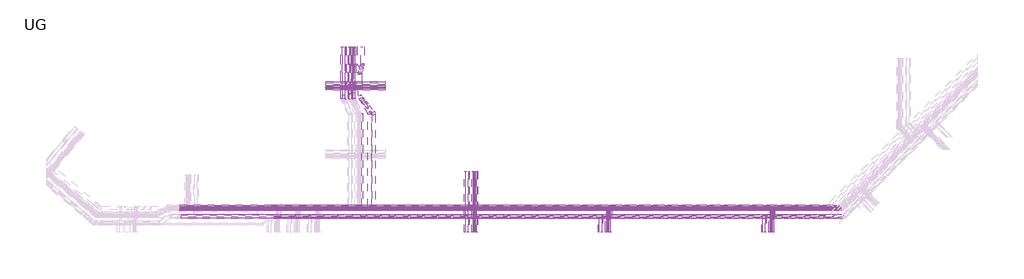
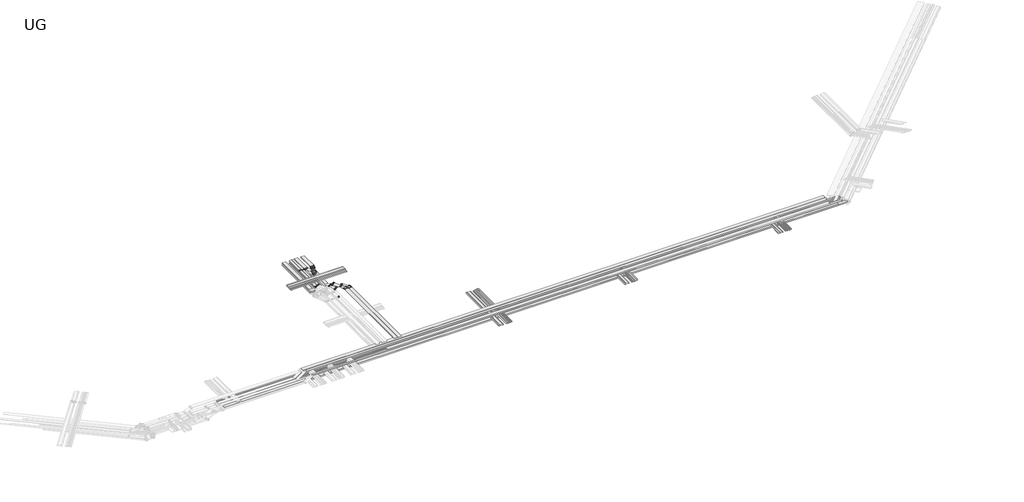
# One storey, part 11 of 14: 84 cable carrier segments, 19 cable carrier fittings.
"""IFC4 building model written with IfcOpenShell, lengths in millimetres."""

from ifc_helpers import new_model, si_unit, frame, origin, place, context, project, spatial, polyline, outline, extrude, transform, mapped, element, save
from components import cable_tray_horizontal_bend_01508106, cable_tray_horizontal_bend_86dabf7d, cable_tray_horizontal_bend_4702312a, cable_tray_horizontal_bend_7e36f1fa, cable_tray_horizontal_bend_95bc2381, cable_tray_horizontal_bend_7b900498, cable_tray_horizontal_bend_bd9ec753, cable_tray_horizontal_bend_85a4f385, cable_tray_horizontal_bend_bddb0f2c, cable_tray_horizontal_bend_cd0ecd2f, cable_tray_vertical_inside_bend_1594799f, cable_tray_vertical_outside_bend_12a83c8c

model = new_model("IFC4")

# Units and contexts
model_context = context("Model", 3, world=origin())
ifc_project = project(units=[si_unit("LENGTHUNIT", "METRE", prefix="MILLI")], contexts=[model_context])

# Site, building, storey
site = spatial("IfcSite", under=ifc_project)
building = spatial("IfcBuilding", under=site)
storey = spatial("IfcBuildingStorey", under=building, Name="UG", Elevation=7925.0)

# Cable carrier fittings
placement = place(None, origin())
cable_tray_horizontal_bend_shape = cable_tray_horizontal_bend_01508106(model_context)
element("IfcCableCarrierFitting", 1, ObjectType="Cable Tray Horizontal Bend : ELEC_ELV_TKG_N2402", at=placement, inside=storey, context=model_context, shape_type="MappedRepresentation", body=[
    mapped(cable_tray_horizontal_bend_shape, transform((176175.0000111, 39935.5055951, 12605.0), x_axis=(0.0, 1.0, 0.0), y_axis=(-1.0, 0.0, 0.0), z_axis=(0.0, 0.0, 1.0))),
])
cable_tray_horizontal_bend_2_shape = cable_tray_horizontal_bend_86dabf7d(model_context)
element("IfcCableCarrierFitting", 2, ObjectType="Cable Tray Horizontal Bend : ELEC_SUB_CT_N2402", at=placement, inside=storey, context=model_context, shape_type="MappedRepresentation", body=[
    mapped(cable_tray_horizontal_bend_2_shape, transform((174100.5007982, 43133.0967724, 13305.0), x_axis=(0.0, -1.0, 0.0), y_axis=(1.0, 0.0, 0.0), z_axis=(0.0, 0.0, 1.0))),
])
cable_tray_horizontal_bend_3_shape = cable_tray_horizontal_bend_4702312a(model_context)
element("IfcCableCarrierFitting", 3, ObjectType="Cable Tray Horizontal Bend : ELEC_SUB_CT_N2402", at=placement, inside=storey, context=model_context, shape_type="MappedRepresentation", body=[
    mapped(cable_tray_horizontal_bend_3_shape, transform((174550.5007982, 43329.2351048, 13305.0), x_axis=(0.0, -1.0, 0.0), y_axis=(1.0, 0.0, 0.0), z_axis=(0.0, 0.0, 1.0))),
])
cable_tray_horizontal_bend_4_shape = cable_tray_horizontal_bend_7e36f1fa(model_context)
element("IfcCableCarrierFitting", 4, ObjectType="Cable Tray Horizontal Bend : ELEC_SUB_CT_N2402", at=placement, inside=storey, context=model_context, shape_type="MappedRepresentation", body=[
    mapped(cable_tray_horizontal_bend_4_shape, transform((177399.4992066, 40035.5055951, 13775.0), x_axis=(0.0, 1.0, 0.0), y_axis=(-1.0, 0.0, 0.0), z_axis=(0.0, 0.0, 1.0))),
])
cable_tray_horizontal_bend_5_shape = cable_tray_horizontal_bend_95bc2381(model_context)
element("IfcCableCarrierFitting", 5, ObjectType="Cable Tray Horizontal Bend : ELEC_SUB_CT_N2402", at=placement, inside=storey, context=model_context, shape_type="MappedRepresentation", body=[
    mapped(cable_tray_horizontal_bend_5_shape, transform((178049.4992066, 39960.5055951, 13775.0), x_axis=(0.0, 1.0, 0.0), y_axis=(-1.0, 0.0, 0.0), z_axis=(0.0, 0.0, 1.0))),
])
cable_tray_horizontal_bend_6_shape = cable_tray_horizontal_bend_7b900498(model_context)
element("IfcCableCarrierFitting", 6, ObjectType="Cable Tray Horizontal Bend : ELEC_SUB_CT_N2402", at=placement, inside=storey, context=model_context, shape_type="MappedRepresentation", body=[
    mapped(cable_tray_horizontal_bend_6_shape, transform((174100.5283991, 48010.5055951, 13305.004421), x_axis=(0.0, -1.0, 0.0), y_axis=(0.9999999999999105, 0.0, -4.23194812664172e-07), z_axis=(4.23194812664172e-07, 0.0, 0.9999999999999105))),
])
element("IfcCableCarrierFitting", 7, ObjectType="Cable Tray Horizontal Bend : ELEC_SUB_CT_N2402", at=placement, inside=storey, context=model_context, shape_type="MappedRepresentation", body=[
    mapped(cable_tray_horizontal_bend_6_shape, transform((174100.5007982, 48010.7724522, 13305.0), x_axis=(0.0, 1.0, 0.0), y_axis=(-0.9999999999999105, 0.0, 4.231947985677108e-07), z_axis=(4.231947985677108e-07, 0.0, 0.9999999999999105))),
])
cable_tray_horizontal_bend_7_shape = cable_tray_horizontal_bend_bd9ec753(model_context)
element("IfcCableCarrierFitting", 8, ObjectType="Cable Tray Horizontal Bend : ELEC_SUB_CT_N2402", at=placement, inside=storey, context=model_context, shape_type="MappedRepresentation", body=[
    mapped(cable_tray_horizontal_bend_7_shape, transform((174550.5283991, 47910.5055951, 13305.004421), x_axis=(0.0, -1.0, 0.0), y_axis=(0.9999999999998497, 0.0, -5.483517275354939e-07), z_axis=(5.483517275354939e-07, 0.0, 0.9999999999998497))),
])
element("IfcCableCarrierFitting", 9, ObjectType="Cable Tray Horizontal Bend : ELEC_SUB_CT_N2402", at=placement, inside=storey, context=model_context, shape_type="MappedRepresentation", body=[
    mapped(cable_tray_horizontal_bend_7_shape, transform((174550.5007982, 47910.7402453, 13305.0), x_axis=(0.0, 1.0, 0.0), y_axis=(-0.9999999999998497, 0.0, 5.483517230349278e-07), z_axis=(5.483517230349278e-07, 0.0, 0.9999999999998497))),
])
cable_tray_horizontal_bend_8_shape = cable_tray_horizontal_bend_85a4f385(model_context)
element("IfcCableCarrierFitting", 10, ObjectType="Cable Tray Horizontal Bend : ELEC_SUB_CT_N2402", at=placement, inside=storey, context=model_context, shape_type="MappedRepresentation", body=[
    mapped(cable_tray_horizontal_bend_8_shape, transform((175100.5510187, 47910.5055951, 13304.8609064), x_axis=(0.0, -1.0, 0.0), y_axis=(1.0, 0.0, 0.0), z_axis=(0.0, 0.0, 1.0))),
])
cable_tray_horizontal_bend_9_shape = cable_tray_horizontal_bend_bddb0f2c(model_context)
element("IfcCableCarrierFitting", 11, ObjectType="Cable Tray Horizontal Bend : ELEC_SUB_CT_N2402", at=placement, inside=storey, context=model_context, shape_type="MappedRepresentation", body=[
    mapped(cable_tray_horizontal_bend_9_shape, transform((175805.5007838, 46560.5055951, 13305.0), x_axis=(0.0, 1.0, 0.0), y_axis=(-0.9999999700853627, 0.0, -0.00024460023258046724), z_axis=(-0.00024460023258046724, 0.0, 0.9999999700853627))),
])
cable_tray_horizontal_bend_10_shape = cable_tray_horizontal_bend_cd0ecd2f(model_context)
element("IfcCableCarrierFitting", 12, ObjectType="Cable Tray Horizontal Bend : ELEC_SUB_CT_N2402", at=placement, inside=storey, context=model_context, shape_type="MappedRepresentation", body=[
    mapped(cable_tray_horizontal_bend_10_shape, transform((176229.6338468, 48010.5055951, 13305.0), x_axis=(0.2807419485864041, 0.9597832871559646, 0.0), y_axis=(-0.9597832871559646, 0.2807419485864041, 0.0), z_axis=(0.0, 0.0, 1.0))),
])
element("IfcCableCarrierFitting", 13, ObjectType="Cable Tray Horizontal Bend : ELEC_SUB_CT_N2402", at=placement, inside=storey, context=model_context, shape_type="MappedRepresentation", body=[
    mapped(cable_tray_horizontal_bend_10_shape, transform((175805.5007838, 46560.5055951, 12930.0), x_axis=(-0.28074194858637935, -0.9597832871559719, 0.0), y_axis=(0.9597832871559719, -0.28074194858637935, 0.0), z_axis=(0.0, 0.0, 1.0))),
])
cable_tray_vertical_inside_bend_shape = cable_tray_vertical_inside_bend_1594799f(model_context)
element("IfcCableCarrierFitting", 14, ObjectType="Cable Tray Vertical Inside Bend : ELEC_SUB_CT_N2402", at=placement, inside=storey, context=model_context, shape_type="MappedRepresentation", body=[
    mapped(cable_tray_vertical_inside_bend_shape, transform((176040.6963746, 42315.8074596, 13305.0), x_axis=(0.5118955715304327, -0.8590476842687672, 0.0), y_axis=(0.0, 0.0, 1.0), z_axis=(-0.8590476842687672, -0.5118955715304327, 0.0))),
])
element("IfcCableCarrierFitting", 15, ObjectType="Cable Tray Vertical Inside Bend : ELEC_SUB_CT_N2402", at=placement, inside=storey, context=model_context, shape_type="MappedRepresentation", body=[
    mapped(cable_tray_vertical_inside_bend_shape, transform((176660.5210746, 41662.6858748, 12930.0), x_axis=(0.6322243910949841, -0.774785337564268, 0.0), y_axis=(0.0, 0.0, 1.0000000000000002), z_axis=(-0.774785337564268, -0.6322243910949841, 0.0))),
])
element("IfcCableCarrierFitting", 16, ObjectType="Cable Tray Vertical Inside Bend : ELEC_SUB_CT_N2402", at=placement, inside=storey, context=model_context, shape_type="MappedRepresentation", body=[
    mapped(cable_tray_vertical_inside_bend_shape, transform((176017.6178096, 47285.6782219, 12930.0), x_axis=(-0.19851453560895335, -0.6786692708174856, -0.7071067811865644), y_axis=(-0.19851453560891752, -0.6786692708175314, 0.7071067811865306), z_axis=(-0.9597832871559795, 0.2807419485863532, 0.0))),
])
cable_tray_vertical_outside_bend_shape = cable_tray_vertical_outside_bend_12a83c8c(model_context)
element("IfcCableCarrierFitting", 17, ObjectType="Cable Tray Vertical Outside Bend : ELEC_SUB_CT_N2402", at=placement, inside=storey, context=model_context, shape_type="MappedRepresentation", body=[
    mapped(cable_tray_vertical_outside_bend_shape, transform((176281.2872932, 41912.055048, 13775.0), x_axis=(0.3619648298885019, -0.6074384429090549, 0.7071067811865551), y_axis=(0.36196482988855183, -0.6074384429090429, -0.70710678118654), z_axis=(0.859047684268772, 0.511895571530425, 0.0))),
])
element("IfcCableCarrierFitting", 18, ObjectType="Cable Tray Vertical Outside Bend : ELEC_SUB_CT_N2402", at=placement, inside=storey, context=model_context, shape_type="MappedRepresentation", body=[
    mapped(cable_tray_vertical_outside_bend_shape, transform((177194.7506851, 41007.9922646, 13775.0), x_axis=(0.4470501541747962, -0.5478559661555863, 0.7071067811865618), y_axis=(0.4470501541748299, -0.5478559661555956, -0.7071067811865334), z_axis=(0.7747853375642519, 0.6322243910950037, 0.0))),
])
element("IfcCableCarrierFitting", 19, ObjectType="Cable Tray Vertical Outside Bend : ELEC_SUB_CT_N2402", at=placement, inside=storey, context=model_context, shape_type="MappedRepresentation", body=[
    mapped(cable_tray_vertical_outside_bend_shape, transform((176122.8960403, 47645.5969546, 13305.0), x_axis=(-0.2807419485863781, -0.9597832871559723, 0.0), y_axis=(0.0, 0.0, -1.0), z_axis=(0.9597832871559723, -0.2807419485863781, 0.0))),
])

# Cable carrier segments
element("IfcCableCarrierSegment", 20, ObjectType="ELEC_ELV_TKG_N2402", at=placement, inside=storey, context=model_context, shape_type="SweptSolid", body=[
    extrude(outline(polyline([(173400.500803, 42391.2447178), (173000.500803, 42391.2447178), (173000.500803, 50910.5055951), (173400.500803, 50910.5055951), (173400.500803, 42391.2447178)])), frame((0.0, 0.0, 12905.0), z_axis=(0.0, 0.0, 1.0), x_axis=(1.0, 0.0, 0.0)), (0.0, 0.0, 1.0), 150.0),
])
element("IfcCableCarrierSegment", 21, ObjectType="ELEC_ELV_TKG_N2402", at=placement, inside=storey, context=model_context, shape_type="SweptSolid", body=[
    extrude(outline(polyline([(175155.5007949, 42343.4059589), (175005.5007949, 42343.4059589), (175005.5007949, 50910.5055951), (175155.5007949, 50910.5055951), (175155.5007949, 42343.4059589)])), frame((0.0, 0.0, 12905.0), z_axis=(0.0, 0.0, 1.0), x_axis=(1.0, 0.0, 0.0)), (0.0, 0.0, 1.0), 150.0),
])
element("IfcCableCarrierSegment", 22, ObjectType="ELEC_ELV_TKG_N2402", at=placement, inside=storey, context=model_context, shape_type="SweptSolid", body=[
    extrude(outline(polyline([(174550.5007949, 42333.4334212), (174450.5007949, 42333.4334212), (174450.5007949, 50910.5055951), (174550.5007949, 50910.5055951), (174550.5007949, 42333.4334212)])), frame((0.0, 0.0, 12905.0), z_axis=(0.0, 0.0, 1.0), x_axis=(1.0, 0.0, 0.0)), (0.0, 0.0, 1.0), 100.0),
])
element("IfcCableCarrierSegment", 23, ObjectType="ELEC_ELV_TKG_N2402", at=placement, inside=storey, context=model_context, shape_type="SweptSolid", body=[
    extrude(outline(polyline([(174700.5007949, 42333.4334212), (174600.5007949, 42333.4334212), (174600.5007949, 50910.5055951), (174700.5007949, 50910.5055951), (174700.5007949, 42333.4334212)])), frame((0.0, 0.0, 12905.0), z_axis=(0.0, 0.0, 1.0), x_axis=(1.0, 0.0, 0.0)), (0.0, 0.0, 1.0), 100.0),
])
element("IfcCableCarrierSegment", 24, ObjectType="ELEC_ELV_TKG_N2402", at=placement, inside=storey, context=model_context, shape_type="SweptSolid", body=[
    extrude(outline(polyline([(174900.5007949, 42344.8973343), (174750.5007949, 42344.8973343), (174750.5007949, 50910.5055951), (174900.5007949, 50910.5055951), (174900.5007949, 42344.8973343)])), frame((0.0, 0.0, 12905.0), z_axis=(0.0, 0.0, 1.0), x_axis=(1.0, 0.0, 0.0)), (0.0, 0.0, 1.0), 150.0),
])
element("IfcCableCarrierSegment", 25, ObjectType="ELEC_ELV_TKG_N2402", at=placement, inside=storey, context=model_context, shape_type="SweptSolid", body=[
    extrude(outline(polyline([(174200.5007982, 42336.9320374), (174100.5007982, 42336.9320374), (174100.5007982, 50910.5055951), (174200.5007982, 50910.5055951), (174200.5007982, 42336.9320374)])), frame((0.0, 0.0, 12905.0), z_axis=(0.0, 0.0, 1.0), x_axis=(1.0, 0.0, 0.0)), (0.0, 0.0, 1.0), 100.0),
])
element("IfcCableCarrierSegment", 26, ObjectType="ELEC_ELV_CT_N2402", at=placement, inside=storey, context=model_context, shape_type="SweptSolid", body=[
    extrude(outline(polyline([(242615.2178846, 24200.0000035), (242765.2178846, 24200.0000035), (242765.2178846, 20563.0534549), (242615.2178846, 20563.0534549), (242615.2178846, 24200.0000035)])), frame((0.0, 0.0, 13074.9999954), z_axis=(0.0, 0.0, 1.0), x_axis=(1.0, 0.0, 0.0)), (0.0, 0.0, 1.0), 50.0),
])
element("IfcCableCarrierSegment", 27, ObjectType="ELEC_ELV_TKG_N2402", at=placement, inside=storey, context=model_context, shape_type="SweptSolid", body=[
    extrude(outline(polyline([(242965.2178846, 24500.0000036), (243065.2178846, 24500.0000036), (243065.2178846, 20563.0534549), (242965.2178846, 20563.0534549), (242965.2178846, 24500.0000036)])), frame((0.0, 0.0, 13074.9999954), z_axis=(0.0, 0.0, 1.0), x_axis=(1.0, 0.0, 0.0)), (0.0, 0.0, 1.0), 100.0),
])
element("IfcCableCarrierSegment", 28, ObjectType="ELEC_ELV_TKG_N2402", at=placement, inside=storey, context=model_context, shape_type="SweptSolid", body=[
    extrude(outline(polyline([(243215.2178846, 20563.0534549), (243115.2178846, 20563.0534549), (243115.2178846, 24650.0000036), (243215.2178846, 24650.0000036), (243215.2178846, 20563.0534549)])), frame((0.0, 0.0, 13074.9999954), z_axis=(0.0, 0.0, 1.0), x_axis=(1.0, 0.0, 0.0)), (0.0, 0.0, 1.0), 100.0),
])
element("IfcCableCarrierSegment", 29, ObjectType="ELEC_ELV_TKG_N2402", at=placement, inside=storey, context=model_context, shape_type="SweptSolid", body=[
    extrude(outline(polyline([(242915.2178846, 20563.0534549), (242815.2178846, 20563.0534549), (242815.2178846, 24350.0000036), (242915.2178846, 24350.0000036), (242915.2178846, 20563.0534549)])), frame((0.0, 0.0, 13074.9999954), z_axis=(0.0, 0.0, 1.0), x_axis=(1.0, 0.0, 0.0)), (0.0, 0.0, 1.0), 100.0),
])
element("IfcCableCarrierSegment", 30, ObjectType="ELEC_ELV_TKG_N2402", at=placement, inside=storey, context=model_context, shape_type="SweptSolid", body=[
    extrude(outline(polyline([(243265.2178846, 24850.0000036), (243415.2178846, 24850.0000036), (243415.2178846, 20563.0534549), (243265.2178846, 20563.0534549), (243265.2178846, 24850.0000036)])), frame((0.0, 0.0, 13074.9999954), z_axis=(0.0, 0.0, 1.0), x_axis=(1.0, 0.0, 0.0)), (0.0, 0.0, 1.0), 150.0),
])
element("IfcCableCarrierSegment", 31, ObjectType="ELEC_ELV_TKG_N2402", at=placement, inside=storey, context=model_context, shape_type="SweptSolid", body=[
    extrude(outline(polyline([(241615.123105, 23400.0), (242015.123105, 23400.0), (242015.123105, 20563.0534549), (241615.123105, 20563.0534549), (241615.123105, 23400.0)])), frame((0.0, 0.0, 13074.9999873), z_axis=(0.0, 0.0, 1.0), x_axis=(1.0, 0.0, 0.0)), (0.0, 0.0, 1.0), 150.0),
])
element("IfcCableCarrierSegment", 32, ObjectType="ELEC_ELV_TKG_N2402", at=placement, inside=storey, context=model_context, shape_type="SweptSolid", body=[
    extrude(outline(polyline([(241565.123105, 20563.0534549), (241415.123105, 20563.0534549), (241415.123105, 22950.0000046), (241565.123105, 22950.0000046), (241565.123105, 20563.0534549)])), frame((0.0, 0.0, 13074.9999873), z_axis=(0.0, 0.0, 1.0), x_axis=(1.0, 0.0, 0.0)), (0.0, 0.0, 1.0), 150.0),
])
element("IfcCableCarrierSegment", 33, ObjectType="ELEC_ELV_TKG_N2402", at=placement, inside=storey, context=model_context, shape_type="SweptSolid", body=[
    extrude(outline(polyline([(242165.123105, 20563.0534549), (242065.123105, 20563.0534549), (242065.123105, 23550.0), (242165.123105, 23550.0), (242165.123105, 20563.0534549)])), frame((0.0, 0.0, 13074.9999954), z_axis=(0.0, 0.0, 1.0), x_axis=(1.0, 0.0, 0.0)), (0.0, 0.0, 1.0), 100.0),
])
element("IfcCableCarrierSegment", 34, ObjectType="ELEC_ELV_TKG_N2402", at=placement, inside=storey, context=model_context, shape_type="SweptSolid", body=[
    extrude(outline(polyline([(243465.2178846, 25050.0000036), (243615.2178846, 25050.0000036), (243615.2178846, 20563.0534549), (243465.2178846, 20563.0534549), (243465.2178846, 25050.0000036)])), frame((0.0, 0.0, 13074.9999954), z_axis=(0.0, 0.0, 1.0), x_axis=(1.0, 0.0, 0.0)), (0.0, 0.0, 1.0), 150.0),
])
element("IfcCableCarrierSegment", 35, ObjectType="ELEC_ELV_CT_N2402", at=placement, inside=storey, context=model_context, shape_type="SweptSolid", body=[
    extrude(outline(polyline([(215912.2220567, 24200.0000035), (216062.2220567, 24200.0000035), (216062.2220567, 20563.0534549), (215912.2220567, 20563.0534549), (215912.2220567, 24200.0000035)])), frame((0.0, 0.0, 13074.9999954), z_axis=(0.0, 0.0, 1.0), x_axis=(1.0, 0.0, 0.0)), (0.0, 0.0, 1.0), 50.0),
])
element("IfcCableCarrierSegment", 36, ObjectType="ELEC_ELV_TKG_N2402", at=placement, inside=storey, context=model_context, shape_type="SweptSolid", body=[
    extrude(outline(polyline([(216262.2220567, 24500.0000036), (216362.2220567, 24500.0000036), (216362.2220567, 20563.0534549), (216262.2220567, 20563.0534549), (216262.2220567, 24500.0000036)])), frame((0.0, 0.0, 13074.9999954), z_axis=(0.0, 0.0, 1.0), x_axis=(1.0, 0.0, 0.0)), (0.0, 0.0, 1.0), 100.0),
])
element("IfcCableCarrierSegment", 37, ObjectType="ELEC_ELV_TKG_N2402", at=placement, inside=storey, context=model_context, shape_type="SweptSolid", body=[
    extrude(outline(polyline([(216512.2220567, 20563.0534549), (216412.2220567, 20563.0534549), (216412.2220567, 24650.0000036), (216512.2220567, 24650.0000036), (216512.2220567, 20563.0534549)])), frame((0.0, 0.0, 13074.9999954), z_axis=(0.0, 0.0, 1.0), x_axis=(1.0, 0.0, 0.0)), (0.0, 0.0, 1.0), 100.0),
])
element("IfcCableCarrierSegment", 38, ObjectType="ELEC_ELV_TKG_N2402", at=placement, inside=storey, context=model_context, shape_type="SweptSolid", body=[
    extrude(outline(polyline([(216212.2220567, 20563.0534549), (216112.2220567, 20563.0534549), (216112.2220567, 24350.0000036), (216212.2220567, 24350.0000036), (216212.2220567, 20563.0534549)])), frame((0.0, 0.0, 13074.9999954), z_axis=(0.0, 0.0, 1.0), x_axis=(1.0, 0.0, 0.0)), (0.0, 0.0, 1.0), 100.0),
])
element("IfcCableCarrierSegment", 39, ObjectType="ELEC_ELV_TKG_N2402", at=placement, inside=storey, context=model_context, shape_type="SweptSolid", body=[
    extrude(outline(polyline([(216562.2220567, 24850.0000036), (216712.2220567, 24850.0000036), (216712.2220567, 20563.0534549), (216562.2220567, 20563.0534549), (216562.2220567, 24850.0000036)])), frame((0.0, 0.0, 13074.9999954), z_axis=(0.0, 0.0, 1.0), x_axis=(1.0, 0.0, 0.0)), (0.0, 0.0, 1.0), 150.0),
])
element("IfcCableCarrierSegment", 40, ObjectType="ELEC_ELV_TKG_N2402", at=placement, inside=storey, context=model_context, shape_type="SweptSolid", body=[
    extrude(outline(polyline([(214912.127277, 23400.0), (215312.127277, 23400.0), (215312.127277, 20563.0534549), (214912.127277, 20563.0534549), (214912.127277, 23400.0)])), frame((0.0, 0.0, 13074.9999873), z_axis=(0.0, 0.0, 1.0), x_axis=(1.0, 0.0, 0.0)), (0.0, 0.0, 1.0), 150.0),
])
element("IfcCableCarrierSegment", 41, ObjectType="ELEC_ELV_TKG_N2402", at=placement, inside=storey, context=model_context, shape_type="SweptSolid", body=[
    extrude(outline(polyline([(214862.127277, 20563.0534549), (214712.127277, 20563.0534549), (214712.127277, 22950.0000046), (214862.127277, 22950.0000046), (214862.127277, 20563.0534549)])), frame((0.0, 0.0, 13074.9999873), z_axis=(0.0, 0.0, 1.0), x_axis=(1.0, 0.0, 0.0)), (0.0, 0.0, 1.0), 150.0),
])
element("IfcCableCarrierSegment", 42, ObjectType="ELEC_ELV_TKG_N2402", at=placement, inside=storey, context=model_context, shape_type="SweptSolid", body=[
    extrude(outline(polyline([(215462.127277, 20563.0534549), (215362.127277, 20563.0534549), (215362.127277, 23550.0), (215462.127277, 23550.0), (215462.127277, 20563.0534549)])), frame((0.0, 0.0, 13074.9999954), z_axis=(0.0, 0.0, 1.0), x_axis=(1.0, 0.0, 0.0)), (0.0, 0.0, 1.0), 100.0),
])
element("IfcCableCarrierSegment", 43, ObjectType="ELEC_ELV_TKG_N2402", at=placement, inside=storey, context=model_context, shape_type="SweptSolid", body=[
    extrude(outline(polyline([(216762.2220567, 25050.0000036), (216912.2220567, 25050.0000036), (216912.2220567, 20563.0534549), (216762.2220567, 20563.0534549), (216762.2220567, 25050.0000036)])), frame((0.0, 0.0, 13074.9999954), z_axis=(0.0, 0.0, 1.0), x_axis=(1.0, 0.0, 0.0)), (0.0, 0.0, 1.0), 150.0),
])
element("IfcCableCarrierSegment", 44, ObjectType="ELEC_ELV_CT_N2402", at=placement, inside=storey, context=model_context, shape_type="SweptSolid", body=[
    extrude(outline(polyline([(194082.8443773, 30500.0), (194232.8443773, 30500.0), (194232.8443773, 20563.0534549), (194082.8443773, 20563.0534549), (194082.8443773, 30500.0)])), frame((0.0, 0.0, 13074.9999954), z_axis=(0.0, 0.0, 1.0), x_axis=(1.0, 0.0, 0.0)), (0.0, 0.0, 1.0), 50.0),
])
element("IfcCableCarrierSegment", 45, ObjectType="ELEC_ELV_TKG_N2402", at=placement, inside=storey, context=model_context, shape_type="SweptSolid", body=[
    extrude(outline(polyline([(194432.8443773, 30500.0), (194532.8443773, 30500.0), (194532.8443773, 20563.0534549), (194432.8443773, 20563.0534549), (194432.8443773, 30500.0)])), frame((0.0, 0.0, 13074.9999954), z_axis=(0.0, 0.0, 1.0), x_axis=(1.0, 0.0, 0.0)), (0.0, 0.0, 1.0), 100.0),
])
element("IfcCableCarrierSegment", 46, ObjectType="ELEC_ELV_TKG_N2402", at=placement, inside=storey, context=model_context, shape_type="SweptSolid", body=[
    extrude(outline(polyline([(194682.8443773, 20563.0534549), (194582.8443773, 20563.0534549), (194582.8443773, 30500.0), (194682.8443773, 30500.0), (194682.8443773, 20563.0534549)])), frame((0.0, 0.0, 13074.9999954), z_axis=(0.0, 0.0, 1.0), x_axis=(1.0, 0.0, 0.0)), (0.0, 0.0, 1.0), 100.0),
])
element("IfcCableCarrierSegment", 47, ObjectType="ELEC_ELV_TKG_N2402", at=placement, inside=storey, context=model_context, shape_type="SweptSolid", body=[
    extrude(outline(polyline([(194382.8443773, 20563.0534549), (194282.8443773, 20563.0534549), (194282.8443773, 30500.0), (194382.8443773, 30500.0), (194382.8443773, 20563.0534549)])), frame((0.0, 0.0, 13074.9999954), z_axis=(0.0, 0.0, 1.0), x_axis=(1.0, 0.0, 0.0)), (0.0, 0.0, 1.0), 100.0),
])
element("IfcCableCarrierSegment", 48, ObjectType="ELEC_ELV_TKG_N2402", at=placement, inside=storey, context=model_context, shape_type="SweptSolid", body=[
    extrude(outline(polyline([(194732.8443773, 30500.0), (194882.8443773, 30500.0), (194882.8443773, 20563.0534549), (194732.8443773, 20563.0534549), (194732.8443773, 30500.0)])), frame((0.0, 0.0, 13074.9999954), z_axis=(0.0, 0.0, 1.0), x_axis=(1.0, 0.0, 0.0)), (0.0, 0.0, 1.0), 150.0),
])
element("IfcCableCarrierSegment", 49, ObjectType="ELEC_ELV_TKG_N2402", at=placement, inside=storey, context=model_context, shape_type="SweptSolid", body=[
    extrude(outline(polyline([(193082.7495976, 30500.0), (193482.7495976, 30500.0), (193482.7495976, 20563.0534549), (193082.7495976, 20563.0534549), (193082.7495976, 30500.0)])), frame((0.0, 0.0, 13074.9999873), z_axis=(0.0, 0.0, 1.0), x_axis=(1.0, 0.0, 0.0)), (0.0, 0.0, 1.0), 150.0),
])
element("IfcCableCarrierSegment", 50, ObjectType="ELEC_ELV_TKG_N2402", at=placement, inside=storey, context=model_context, shape_type="SweptSolid", body=[
    extrude(outline(polyline([(193032.7495976, 20563.0534549), (192882.7495976, 20563.0534549), (192882.7495976, 30500.0), (193032.7495976, 30500.0), (193032.7495976, 20563.0534549)])), frame((0.0, 0.0, 13074.9999873), z_axis=(0.0, 0.0, 1.0), x_axis=(1.0, 0.0, 0.0)), (0.0, 0.0, 1.0), 150.0),
])
element("IfcCableCarrierSegment", 51, ObjectType="ELEC_ELV_TKG_N2402", at=placement, inside=storey, context=model_context, shape_type="SweptSolid", body=[
    extrude(outline(polyline([(193632.7495976, 20563.0534549), (193532.7495976, 20563.0534549), (193532.7495976, 30500.0), (193632.7495976, 30500.0), (193632.7495976, 20563.0534549)])), frame((0.0, 0.0, 13074.9999954), z_axis=(0.0, 0.0, 1.0), x_axis=(1.0, 0.0, 0.0)), (0.0, 0.0, 1.0), 100.0),
])
element("IfcCableCarrierSegment", 52, ObjectType="ELEC_ELV_TKG_N2402", at=placement, inside=storey, context=model_context, shape_type="SweptSolid", body=[
    extrude(outline(polyline([(194932.8443773, 30500.0), (195082.8443773, 30500.0), (195082.8443773, 20563.0534549), (194932.8443773, 20563.0534549), (194932.8443773, 30500.0)])), frame((0.0, 0.0, 13074.9999954), z_axis=(0.0, 0.0, 1.0), x_axis=(1.0, 0.0, 0.0)), (0.0, 0.0, 1.0), 150.0),
])
element("IfcCableCarrierSegment", 53, ObjectType="ELEC_SUB_CT_N2402", at=placement, inside=storey, context=model_context, shape_type="SweptSolid", body=[
    extrude(outline(polyline([(251605.929364, 23400.0000035), (251605.929364, 22800.0000035), (174845.3196332, 22800.0000035), (174845.3196332, 23400.0000035), (251605.929364, 23400.0000035)])), frame((0.0, 0.0, 13700.0000051), z_axis=(0.0, 0.0, 1.0), x_axis=(1.0, 0.0, 0.0)), (0.0, 0.0, 1.0), 50.0),
])
element("IfcCableCarrierSegment", 54, ObjectType="ELEC_SUB_CT_N2402", at=placement, inside=storey, context=model_context, shape_type="SweptSolid", body=[
    extrude(outline(polyline([(177099.4992066, 39870.2934031), (177699.4992066, 39870.2934031), (177699.4992066, 24750.000008), (177099.4992066, 24750.000008), (177099.4992066, 39870.2934031)])), frame((0.0, 0.0, 13750.0), z_axis=(0.0, 0.0, 1.0), x_axis=(1.0, 0.0, 0.0)), (0.0, 0.0, 1.0), 50.0),
])
element("IfcCableCarrierSegment", 55, ObjectType="ELEC_SUB_CT_N2402", at=placement, inside=storey, context=model_context, shape_type="SweptSolid", body=[
    extrude(outline(polyline([(177749.4992066, 39746.7700933), (178349.4992066, 39746.7700933), (178349.4992066, 24750.000008), (177749.4992066, 24750.000008), (177749.4992066, 39746.7700933)])), frame((0.0, 0.0, 13750.0), z_axis=(0.0, 0.0, 1.0), x_axis=(1.0, 0.0, 0.0)), (0.0, 0.0, 1.0), 50.0),
])
element("IfcCableCarrierSegment", 56, ObjectType="ELEC_SUB_CT_N2402", at=placement, inside=storey, context=model_context, shape_type="SweptSolid", body=[
    extrude(outline(polyline([(0.0, -200.0), (0.0, 0.0), (91926.4799285, 0.0), (91926.4799285, -200.0), (0.0, -200.0)])), frame((161875.0338359, 22999.9891021, 13474.999992), z_axis=(-4.295341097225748e-11, 0.0, 1.0), x_axis=(1.0, 0.0, 4.295341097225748e-11)), (0.0, 0.0, 1.0), 50.0),
])
element("IfcCableCarrierSegment", 57, ObjectType="ELEC_SUB_CT_N2402", at=placement, inside=storey, context=model_context, shape_type="SweptSolid", body=[
    extrude(outline(polyline([(161578.5075871, 24200.000008), (161578.5075871, 24600.000008), (251895.2691978, 24600.000008), (251895.2691978, 24200.000008), (161578.5075871, 24200.000008)])), frame((0.0, 0.0, 13475.0), z_axis=(0.0, 0.0, 1.0), x_axis=(1.0, 0.0, 0.0)), (0.0, 0.0, 1.0), 50.0),
])
element("IfcCableCarrierSegment", 58, ObjectType="ELEC_ELV_TKG_N2402", at=placement, inside=storey, context=model_context, shape_type="SweptSolid", body=[
    extrude(outline(polyline([(170198.5039276, 45083.5439461), (170198.5039276, 45233.5439461), (179932.2119857, 45233.5439461), (179932.2119857, 45083.5439461), (170198.5039276, 45083.5439461)])), frame((0.0, 0.0, 13480.0), z_axis=(0.0, 0.0, 1.0), x_axis=(1.0, 0.0, 0.0)), (0.0, 0.0, 1.0), 150.0),
])
element("IfcCableCarrierSegment", 59, ObjectType="ELEC_ELV_TKG_N2402", at=placement, inside=storey, context=model_context, shape_type="SweptSolid", body=[
    extrude(outline(polyline([(179932.2119857, 45033.5439461), (179932.2119857, 44633.5439461), (170198.5039276, 44633.5439461), (170198.5039276, 45033.5439461), (179932.2119857, 45033.5439461)])), frame((0.0, 0.0, 13480.0), z_axis=(0.0, 0.0, 1.0), x_axis=(1.0, 0.0, 0.0)), (0.0, 0.0, 1.0), 150.0),
])
element("IfcCableCarrierSegment", 60, ObjectType="ELEC_ELV_TKG_N2402", at=placement, inside=storey, context=model_context, shape_type="SweptSolid", body=[
    extrude(outline(polyline([(170198.5039276, 44483.5439461), (170198.5039276, 44583.5439461), (179932.2119857, 44583.5439461), (179932.2119857, 44483.5439461), (170198.5039276, 44483.5439461)])), frame((0.0, 0.0, 13480.0), z_axis=(0.0, 0.0, 1.0), x_axis=(1.0, 0.0, 0.0)), (0.0, 0.0, 1.0), 100.0),
])
element("IfcCableCarrierSegment", 61, ObjectType="ELEC_ELV_TKG_N2402", at=placement, inside=storey, context=model_context, shape_type="SweptSolid", body=[
    extrude(outline(polyline([(179932.2119857, 44433.5439461), (179932.2119857, 44283.5439461), (170198.5039276, 44283.5439461), (170198.5039276, 44433.5439461), (179932.2119857, 44433.5439461)])), frame((0.0, 0.0, 13480.0), z_axis=(0.0, 0.0, 1.0), x_axis=(1.0, 0.0, 0.0)), (0.0, 0.0, 1.0), 150.0),
])
element("IfcCableCarrierSegment", 62, ObjectType="ELEC_ELV_TKG_N2402", at=placement, inside=storey, context=model_context, shape_type="SweptSolid", body=[
    extrude(outline(polyline([(179932.2119857, 44233.5439461), (179932.2119857, 44133.5439461), (170198.5039276, 44133.5439461), (170198.5039276, 44233.5439461), (179932.2119857, 44233.5439461)])), frame((0.0, 0.0, 13480.0), z_axis=(0.0, 0.0, 1.0), x_axis=(1.0, 0.0, 0.0)), (0.0, 0.0, 1.0), 100.0),
])
element("IfcCableCarrierSegment", 63, ObjectType="ELEC_ELV_TKG_N2402", at=placement, inside=storey, context=model_context, shape_type="SweptSolid", body=[
    extrude(outline(polyline([(179932.2119857, 44083.5439461), (179932.2119857, 43983.5439461), (170198.5039276, 43983.5439461), (170198.5039276, 44083.5439461), (179932.2119857, 44083.5439461)])), frame((0.0, 0.0, 13480.0), z_axis=(0.0, 0.0, 1.0), x_axis=(1.0, 0.0, 0.0)), (0.0, 0.0, 1.0), 100.0),
])
element("IfcCableCarrierSegment", 64, ObjectType="ELEC_ELV_CT_N2402", at=placement, inside=storey, context=model_context, shape_type="SweptSolid", body=[
    extrude(outline(polyline([(170198.5039276, 43783.5439461), (170198.5039276, 43933.5439461), (179932.2119857, 43933.5439461), (179932.2119857, 43783.5439461), (170198.5039276, 43783.5439461)])), frame((0.0, 0.0, 13485.0), z_axis=(0.0, 0.0, 1.0), x_axis=(1.0, 0.0, 0.0)), (0.0, 0.0, 1.0), 50.0),
])
element("IfcCableCarrierSegment", 65, ObjectType="ELEC_ELV_TKG_N2402", at=placement, inside=storey, context=model_context, shape_type="SweptSolid", body=[
    extrude(outline(polyline([(0.0, -149.9999998), (0.0, 0.0), (1785.6415213, 0.0), (1785.6415213, -149.9999998), (0.0, -149.9999998)])), frame((253183.5216774, 22950.1903845, 12775.3831684), z_axis=(4.0905741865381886e-05, 0.0, 0.9999999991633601), x_axis=(0.9999999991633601, 0.0, -4.0905741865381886e-05)), (0.0, 0.0, 1.0), 149.9999999),
])
element("IfcCableCarrierSegment", 66, ObjectType="ELEC_ELV_TKG_N2402", at=placement, inside=storey, context=model_context, shape_type="SweptSolid", body=[
    extrude(outline(polyline([(0.0, -150.0), (0.0, 0.0), (108026.6073435, 0.0), (108026.6073435, -150.0), (0.0, -150.0)])), frame((146367.4918475, 24850.0000035, 12759.5218812), z_axis=(4.090574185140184e-05, 0.0, 0.9999999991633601), x_axis=(0.9999999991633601, 0.0, -4.090574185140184e-05)), (0.0, 0.0, 1.0), 150.0),
])
element("IfcCableCarrierSegment", 67, ObjectType="ELEC_ELV_TKG_N2402", at=placement, inside=storey, context=model_context, shape_type="SweptSolid", body=[
    extrude(outline(polyline([(0.0, -100.0), (0.0, 0.0), (1547.2857232, 0.0), (1547.2857232, -100.0), (0.0, -100.0)])), frame((254730.7926762, 23450.0, 12750.0200955), z_axis=(0.00020826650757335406, 0.0, 0.9999999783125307), x_axis=(-0.9999999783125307, 0.0, 0.00020826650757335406)), (0.0, 0.0, 1.0), 100.0),
])
element("IfcCableCarrierSegment", 68, ObjectType="ELEC_ELV_TKG_N2402", at=placement, inside=storey, context=model_context, shape_type="SweptSolid", body=[
    extrude(outline(polyline([(0.0, -400.0), (0.0, 0.0), (1547.2894416, 0.0), (1547.2894416, -400.0), (0.0, -400.0)])), frame((254730.7889621, 23000.0, 12750.0698582), z_axis=(0.00018843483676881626, 0.0, 0.999999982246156), x_axis=(-0.999999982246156, 0.0, 0.00018843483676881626)), (0.0, 0.0, 1.0), 150.0),
])
element("IfcCableCarrierSegment", 69, ObjectType="ELEC_ELV_TKG_N2402", at=placement, inside=storey, context=model_context, shape_type="SweptSolid", body=[
    extrude(outline(polyline([(0.0, -150.0), (0.0, 0.0), (106541.5992982, 0.0), (106541.5992982, -150.0), (0.0, -150.0)])), frame((146641.9215064, 22950.0, 12779.3581585), z_axis=(4.0905741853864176e-05, 0.0, 0.9999999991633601), x_axis=(0.9999999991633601, 0.0, -4.0905741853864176e-05)), (0.0, 0.0, 1.0), 150.0),
])
element("IfcCableCarrierSegment", 70, ObjectType="ELEC_ELV_CT_N2402", at=placement, inside=storey, context=model_context, shape_type="SweptSolid", body=[
    extrude(outline(polyline([(0.0, -150.0), (0.0, 0.0), (108287.54991, 0.0), (108287.54991, -150.0), (0.0, -150.0)])), frame((146375.7912822, 24200.0000036, 12764.3116097), z_axis=(8.598966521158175e-05, 0.0, 0.9999999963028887), x_axis=(0.9999999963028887, 0.0, -8.598966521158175e-05)), (0.0, 0.0, 1.0), 50.0),
])
element("IfcCableCarrierSegment", 71, ObjectType="ELEC_ELV_TKG_N2402", at=placement, inside=storey, context=model_context, shape_type="SweptSolid", body=[
    extrude(outline(polyline([(254487.3002139, 24650.0000036), (254487.3002139, 24550.0000036), (146336.1743009, 24550.0000036), (146336.1743009, 24650.0000036), (254487.3002139, 24650.0000036)])), frame((0.0, 0.0, 12754.9999995), z_axis=(0.0, 0.0, 1.0), x_axis=(1.0, 0.0, 0.0)), (0.0, 0.0, 1.0), 100.0),
])
element("IfcCableCarrierSegment", 72, ObjectType="ELEC_ELV_TKG_N2402", at=placement, inside=storey, context=model_context, shape_type="SweptSolid", body=[
    extrude(outline(polyline([(146352.9579208, 24250.0000036), (146352.9579208, 24350.0000036), (254611.5642826, 24350.0000036), (254611.5642826, 24250.0000036), (146352.9579208, 24250.0000036)])), frame((0.0, 0.0, 12754.9999995), z_axis=(0.0, 0.0, 1.0), x_axis=(1.0, 0.0, 0.0)), (0.0, 0.0, 1.0), 100.0),
])
element("IfcCableCarrierSegment", 73, ObjectType="ELEC_ELV_TKG_N2402", at=placement, inside=storey, context=model_context, shape_type="SweptSolid", body=[
    extrude(outline(polyline([(0.0, -100.0), (0.0, 0.0), (108180.2459695, 0.0), (108180.2459695, -100.0), (0.0, -100.0)])), frame((254549.4279466, 24400.0000036, 12754.9999995), z_axis=(8.6588795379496e-05, 0.0, 0.9999999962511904), x_axis=(-0.9999999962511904, 0.0, 8.6588795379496e-05)), (0.0, 0.0, 1.0), 100.0),
])
element("IfcCableCarrierSegment", 74, ObjectType="ELEC_ELV_TKG_N2402", at=placement, inside=storey, context=model_context, shape_type="SweptSolid", body=[
    extrude(outline(polyline([(0.0, -150.0), (0.0, 0.0), (107943.7775926, 0.0), (107943.7775926, -150.0), (0.0, -150.0)])), frame((254311.2563199, 24900.0000036, 12754.9999995), z_axis=(4.1821045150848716e-05, 0.0, 0.9999999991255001), x_axis=(-0.9999999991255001, 0.0, 4.1821045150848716e-05)), (0.0, 0.0, 1.0), 150.0),
])
element("IfcCableCarrierSegment", 75, ObjectType="ELEC_ELV_TKG_N2402", at=placement, inside=storey, context=model_context, shape_type="SweptSolid", body=[
    extrude(outline(polyline([(0.0, -100.0), (0.0, 0.0), (106605.3871498, 0.0), (106605.3871498, -100.0), (0.0, -100.0)])), frame((253183.506179, 23450.0, 12774.9999954), z_axis=(0.00020826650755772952, 0.0, 0.9999999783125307), x_axis=(-0.9999999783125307, 0.0, 0.00020826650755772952)), (0.0, 0.0, 1.0), 100.0),
])
element("IfcCableCarrierSegment", 76, ObjectType="ELEC_ELV_TKG_N2402", at=placement, inside=storey, context=model_context, shape_type="SweptSolid", body=[
    extrude(outline(polyline([(0.0, -400.0), (0.0, 0.0), (106544.1472326, 0.0), (106544.1472326, -400.0), (0.0, -400.0)])), frame((253183.4957561, 23000.0, 12775.0002343), z_axis=(0.00020833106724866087, 0.0, 0.999999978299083), x_axis=(-0.999999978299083, 0.0, 0.00020833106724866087)), (0.0, 0.0, 1.0), 150.0),
])
element("IfcCableCarrierSegment", 77, ObjectType="ELEC_SUB_CT_N2402", at=placement, inside=storey, context=model_context, shape_type="SweptSolid", body=[
    extrude(outline(polyline([(251738.1624119, 25050.000008), (251738.1624119, 24450.000008), (161126.3340075, 24450.000008), (161126.3340075, 25050.000008), (251738.1624119, 25050.000008)])), frame((0.0, 0.0, 13700.0), z_axis=(0.0, 0.0, 1.0), x_axis=(1.0, 0.0, 0.0)), (0.0, 0.0, 1.0), 50.0),
])
element("IfcCableCarrierSegment", 78, ObjectType="ELEC_SUB_CT_N2402", at=placement, inside=storey, context=model_context, shape_type="SweptSolid", body=[
    extrude(outline(polyline([(0.0, -200.0), (0.0, 0.0), (91184.0027933, 0.0), (91184.0027933, -200.0), (0.0, -200.0)])), frame((252992.0493311, 23049.9891021, 13474.9999959), z_axis=(-4.3054821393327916e-11, 0.0, 1.0), x_axis=(-1.0, 0.0, -4.3054821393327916e-11)), (0.0, 0.0, 1.0), 50.0),
])
element("IfcCableCarrierSegment", 79, ObjectType="ELEC_SUB_CT_N2402", at=placement, inside=storey, context=model_context, shape_type="SweptSolid", body=[
    extrude(outline(polyline([(0.0, -400.0), (0.0, 0.0), (90357.7307719, 0.0), (90357.7307719, -400.0), (0.0, -400.0)])), frame((161139.0102838, 25050.000008, 13474.9999917), z_axis=(-9.172917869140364e-11, 0.0, 1.0), x_axis=(1.0, 0.0, 9.172917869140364e-11)), (0.0, 0.0, 1.0), 50.0),
])
element("IfcCableCarrierSegment", 80, ObjectType="ELEC_ELV_TKG_N2402", at=placement, inside=storey, context=model_context, shape_type="SweptSolid", body=[
    extrude(outline(polyline([(172700.5007982, 50910.5055951), (172850.5007982, 50910.5055951), (172850.5007982, 42343.5423771), (172700.5007982, 42343.5423771), (172700.5007982, 50910.5055951)])), frame((0.0, 0.0, 12905.0), z_axis=(0.0, 0.0, 1.0), x_axis=(1.0, 0.0, 0.0)), (0.0, 0.0, 1.0), 150.0),
])
element("IfcCableCarrierSegment", 81, ObjectType="ELEC_ELV_CT_N2402", at=placement, inside=storey, context=model_context, shape_type="SweptSolid", body=[
    extrude(outline(polyline([(173900.5007982, 50910.5055951), (174050.5007982, 50910.5055951), (174050.5007982, 42343.5423771), (173900.5007982, 42343.5423771), (173900.5007982, 50910.5055951)])), frame((0.0, 0.0, 12905.0), z_axis=(0.0, 0.0, 1.0), x_axis=(1.0, 0.0, 0.0)), (0.0, 0.0, 1.0), 50.0),
])
element("IfcCableCarrierSegment", 82, ObjectType="ELEC_ELV_TKG_N2402", at=placement, inside=storey, context=model_context, shape_type="SweptSolid", body=[
    extrude(outline(polyline([(173450.500803, 50910.5055951), (173550.500803, 50910.5055951), (173550.500803, 42330.6903758), (173450.500803, 42330.6903758), (173450.500803, 50910.5055951)])), frame((0.0, 0.0, 12905.0), z_axis=(0.0, 0.0, 1.0), x_axis=(1.0, 0.0, 0.0)), (0.0, 0.0, 1.0), 100.0),
])
element("IfcCableCarrierSegment", 83, ObjectType="ELEC_ELV_TKG_N2402", at=placement, inside=storey, context=model_context, shape_type="SweptSolid", body=[
    extrude(outline(polyline([(176250.0000111, 24769.7871411), (176100.0000111, 24769.7871411), (176100.0000111, 39902.6052312), (176250.0000111, 39902.6052312), (176250.0000111, 24769.7871411)])), frame((0.0, 0.0, 12530.0), z_axis=(0.0, 0.0, 1.0), x_axis=(1.0, 0.0, 0.0)), (0.0, 0.0, 1.0), 150.0),
])
element("IfcCableCarrierSegment", 84, ObjectType="ELEC_SUB_CT_N2402", at=placement, inside=storey, context=model_context, shape_type="SweptSolid", body=[
    extrude(outline(polyline([(173900.5007982, 47990.1416328), (174300.5007982, 47990.1416328), (174300.5007982, 43201.981977), (173900.5007982, 43201.981977), (173900.5007982, 47990.1416328)])), frame((0.0, 0.0, 13280.0), z_axis=(0.0, 0.0, 1.0), x_axis=(1.0, 0.0, 0.0)), (0.0, 0.0, 1.0), 50.0),
])
element("IfcCableCarrierSegment", 85, ObjectType="ELEC_SUB_CT_N2402", at=placement, inside=storey, context=model_context, shape_type="SweptSolid", body=[
    extrude(outline(polyline([(174350.5007982, 47887.2959772), (174750.5007982, 47887.2959772), (174750.5007982, 43396.4496086), (174350.5007982, 43396.4496086), (174350.5007982, 47887.2959772)])), frame((0.0, 0.0, 13280.0), z_axis=(0.0, 0.0, 1.0), x_axis=(1.0, 0.0, 0.0)), (0.0, 0.0, 1.0), 50.0),
])
element("IfcCableCarrierSegment", 86, ObjectType="ELEC_SUB_CT_N2402", at=placement, inside=storey, context=model_context, shape_type="SweptSolid", body=[
    extrude(outline(polyline([(175505.5007838, 46413.2819658), (176105.5007838, 46413.2819658), (176105.5007838, 42875.7177871), (175505.5007838, 42875.7177871), (175505.5007838, 46413.2819658)])), frame((0.0, 0.0, 13280.0), z_axis=(0.0, 0.0, 1.0), x_axis=(1.0, 0.0, 0.0)), (0.0, 0.0, 1.0), 50.0),
])
element("IfcCableCarrierSegment", 87, ObjectType="ELEC_SUB_CT_N2402", at=placement, inside=storey, context=model_context, shape_type="SweptSolid", body=[
    extrude(outline(polyline([(175505.5007838, 46474.5546788), (176105.5007838, 46474.5546788), (176105.5007838, 42924.2410968), (175505.5007838, 42924.2410968), (175505.5007838, 46474.5546788)])), frame((0.0, 0.0, 12905.0), z_axis=(0.0, 0.0, 1.0), x_axis=(1.0, 0.0, 0.0)), (0.0, 0.0, 1.0), 50.0),
])
element("IfcCableCarrierSegment", 88, ObjectType="ELEC_SUB_CT_N2402", at=placement, inside=storey, context=model_context, shape_type="SweptSolid", body=[
    extrude(outline(polyline([(174350.5283991, 50910.5055951), (174750.5283991, 50910.5055951), (174750.5283991, 47933.9498632), (174350.5283991, 47933.9498632), (174350.5283991, 50910.5055951)])), frame((0.0, 0.0, 13280.004421), z_axis=(0.0, 0.0, 1.0), x_axis=(1.0, 0.0, 0.0)), (0.0, 0.0, 1.0), 50.0),
])
element("IfcCableCarrierSegment", 89, ObjectType="ELEC_SUB_CT_N2402", at=placement, inside=storey, context=model_context, shape_type="SweptSolid", body=[
    extrude(outline(polyline([(173900.5283991, 50910.5055951), (174300.5283991, 50910.5055951), (174300.5283991, 48031.1364144), (173900.5283991, 48031.1364144), (173900.5283991, 50910.5055951)])), frame((0.0, 0.0, 13280.004421), z_axis=(0.0, 0.0, 1.0), x_axis=(1.0, 0.0, 0.0)), (0.0, 0.0, 1.0), 50.0),
])
element("IfcCableCarrierSegment", 90, ObjectType="ELEC_SUB_CT_N2402", at=placement, inside=storey, context=model_context, shape_type="SweptSolid", body=[
    extrude(outline(polyline([(175929.6338468, 50910.5055951), (176529.6338468, 50910.5055951), (176529.6338468, 48096.4565113), (175929.6338468, 48096.4565113), (175929.6338468, 50910.5055951)])), frame((0.0, 0.0, 13280.0), z_axis=(0.0, 0.0, 1.0), x_axis=(1.0, 0.0, 0.0)), (0.0, 0.0, 1.0), 50.0),
])
element("IfcCableCarrierSegment", 91, ObjectType="ELEC_SUB_CT_N2402", at=placement, inside=storey, context=model_context, shape_type="SweptSolid", body=[
    extrude(outline(polyline([(174800.5510187, 50910.5055951), (175400.5510187, 50910.5055951), (175400.5510187, 48057.7292205), (174800.5510187, 48057.7292205), (174800.5510187, 50910.5055951)])), frame((0.0, 0.0, 13279.8609064), z_axis=(0.0, 0.0, 1.0), x_axis=(1.0, 0.0, 0.0)), (0.0, 0.0, 1.0), 50.0),
])
element("IfcCableCarrierSegment", 92, ObjectType="ELEC_SUB_CT_N2402", at=placement, inside=storey, context=model_context, shape_type="SweptSolid", body=[
    extrude(outline(polyline([(176092.4840666, 41642.841886), (176607.9126772, 41949.979229), (177572.6421224, 40330.9994175), (177057.2135119, 40023.8620745), (176092.4840666, 41642.841886)])), frame((0.0, 0.0, 13750.0), z_axis=(0.0, 0.0, 1.0), x_axis=(1.0, 0.0, 0.0)), (0.0, 0.0, 1.0), 50.0),
])
element("IfcCableCarrierSegment", 93, ObjectType="ELEC_SUB_CT_N2402", at=placement, inside=storey, context=model_context, shape_type="SweptSolid", body=[
    extrude(outline(polyline([(1e-07, -600.0), (0.0, 0.0), (395.4415589, 0.0), (395.4415588, -600.0), (1e-07, -600.0)])), frame((176356.1872916, 42372.4171666, 13382.5126266), z_axis=(-0.36196482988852, 0.6074384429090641, 0.707106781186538), x_axis=(0.36196482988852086, -0.6074384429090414, 0.7071067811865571)), (0.0, 0.0, 1.0), 50.0),
])
element("IfcCableCarrierSegment", 94, ObjectType="ELEC_SUB_CT_N2402", at=placement, inside=storey, context=model_context, shape_type="SweptSolid", body=[
    extrude(outline(polyline([(177047.4247569, 40714.0238039), (177512.2959594, 41093.3584386), (178146.8060104, 40315.7720453), (177681.9348079, 39936.4374106), (177047.4247569, 40714.0238039)])), frame((0.0, 0.0, 13750.0), z_axis=(0.0, 0.0, 1.0), x_axis=(1.0, 0.0, 0.0)), (0.0, 0.0, 1.0), 50.0),
])
element("IfcCableCarrierSegment", 95, ObjectType="ELEC_SUB_CT_N2402", at=placement, inside=storey, context=model_context, shape_type="SweptSolid", body=[
    extrude(outline(polyline([(175708.19398, 42355.2391449), (176173.0651825, 42734.5737795), (176807.8470027, 41956.6543354), (176342.9758002, 41577.3197008), (175708.19398, 42355.2391449)])), frame((0.0, 0.0, 12905.0), z_axis=(0.0, 0.0, 1.0), x_axis=(1.0, 0.0, 0.0)), (0.0, 0.0, 1.0), 50.0),
])
element("IfcCableCarrierSegment", 96, ObjectType="ELEC_SUB_CT_N2402", at=placement, inside=storey, context=model_context, shape_type="SweptSolid", body=[
    extrude(outline(polyline([(0.0, -600.0), (0.0, 0.0), (925.7716447, 0.0), (925.7716447, -600.0), (0.0, -600.0)])), frame((176964.3145567, 41764.9047473, 13007.5126266), z_axis=(-0.44705015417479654, 0.5478559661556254, 0.7071067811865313), x_axis=(0.4470501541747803, -0.5478559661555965, 0.7071067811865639)), (0.0, 0.0, 1.0), 50.0),
])
element("IfcCableCarrierSegment", 97, ObjectType="ELEC_SUB_CT_N2402", at=placement, inside=storey, context=model_context, shape_type="SweptSolid", body=[
    extrude(outline(polyline([(172700.5007919, 50910.5055951), (173300.5007919, 50910.5055951), (173300.5007919, 42936.254608), (172700.5007919, 42936.254608), (172700.5007919, 50910.5055951)])), frame((0.0, 0.0, 13280.0), z_axis=(0.0, 0.0, 1.0), x_axis=(1.0, 0.0, 0.0)), (0.0, 0.0, 1.0), 50.0),
])
element("IfcCableCarrierSegment", 98, ObjectType="ELEC_SUB_CT_N2402", at=placement, inside=storey, context=model_context, shape_type="SweptSolid", body=[
    extrude(outline(polyline([(1e-07, -400.0), (0.0, 0.0), (41.5299197, 0.0), (41.5299197, -400.0000001), (1e-07, -400.0)])), frame((173903.7124337, 47969.4055188, 13280.0044203), z_axis=(-1.0947599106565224e-05, 0.00010584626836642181, 0.9999999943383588), x_axis=(-0.10288041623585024, 0.9946937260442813, -0.00010641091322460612)), (0.0, 0.0, 1.0), 50.0),
])
element("IfcCableCarrierSegment", 99, ObjectType="ELEC_SUB_CT_N2402", at=placement, inside=storey, context=model_context, shape_type="SweptSolid", body=[
    extrude(outline(polyline([(0.0, -399.9999983), (0.0, 0.0), (47.1248044, 0.0), (47.1248044, -399.9999983), (0.0, -399.9999983)])), frame((174354.6368143, 47863.8555118, 13280.0044197), z_axis=(-1.0952075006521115e-05, 9.310977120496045e-05, 0.9999999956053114), x_axis=(-0.1168200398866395, 0.9931530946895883, -9.37516796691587e-05)), (0.0, 0.0, 1.0), 49.9999998),
])
element("IfcCableCarrierSegment", 100, ObjectType="ELEC_SUB_CT_N2402", at=placement, inside=storey, context=model_context, shape_type="SweptSolid", body=[
    extrude(outline(polyline([(1e-07, -599.9999999), (0.0, 0.0), (1228.5281859, 0.0), (1228.528186, -600.0), (1e-07, -599.9999999)])), frame((175434.625361, 47918.8640175, 13279.8609065), z_axis=(-4.612648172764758e-05, 8.833359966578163e-05, 0.9999999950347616), x_axis=(0.4628766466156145, -0.8864226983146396, 9.965177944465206e-05)), (0.0, 0.0, 1.0), 50.0),
])
element("IfcCableCarrierSegment", 101, ObjectType="ELEC_SUB_CT_N2402", at=placement, inside=storey, context=model_context, shape_type="SweptSolid", body=[
    extrude(outline(polyline([(175691.8895086, 47240.6953488), (176267.7594809, 47072.2501797), (176117.5657976, 46558.7772634), (175541.6958253, 46727.2224326), (175691.8895086, 47240.6953488)])), frame((0.0, 0.0, 12905.0), z_axis=(0.0, 0.0, 1.0), x_axis=(1.0, 0.0, 0.0)), (0.0, 0.0, 1.0), 50.0),
])
element("IfcCableCarrierSegment", 102, ObjectType="ELEC_SUB_CT_N2402", at=placement, inside=storey, context=model_context, shape_type="SweptSolid", body=[
    extrude(outline(polyline([(175917.568833, 48012.2339267), (176493.4388053, 47843.7887576), (176448.6243414, 47690.5798278), (175872.7543691, 47859.0249969), (175917.568833, 48012.2339267)])), frame((0.0, 0.0, 13280.0), z_axis=(0.0, 0.0, 1.0), x_axis=(1.0, 0.0, 0.0)), (0.0, 0.0, 1.0), 50.0),
])
element("IfcCableCarrierSegment", 103, ObjectType="ELEC_SUB_CT_N2402", at=placement, inside=storey, context=model_context, shape_type="SweptSolid", body=[
    extrude(outline(polyline([(-288.7182088, -215.7943608), (298.8454894, -337.3217267), (288.7182089, -386.2853681), (-298.8454893, -264.7580022), (-288.7182088, -215.7943608)])), frame((176044.3417188, 47594.2301315, 12816.7351038), z_axis=(0.19851453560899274, 0.6786692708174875, 0.7071067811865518), x_axis=(0.9800979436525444, -0.13746148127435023, -0.1432213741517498)), (0.0, 0.0, 1.0), 261.0912704),
])

save(model, "model.ifc")
